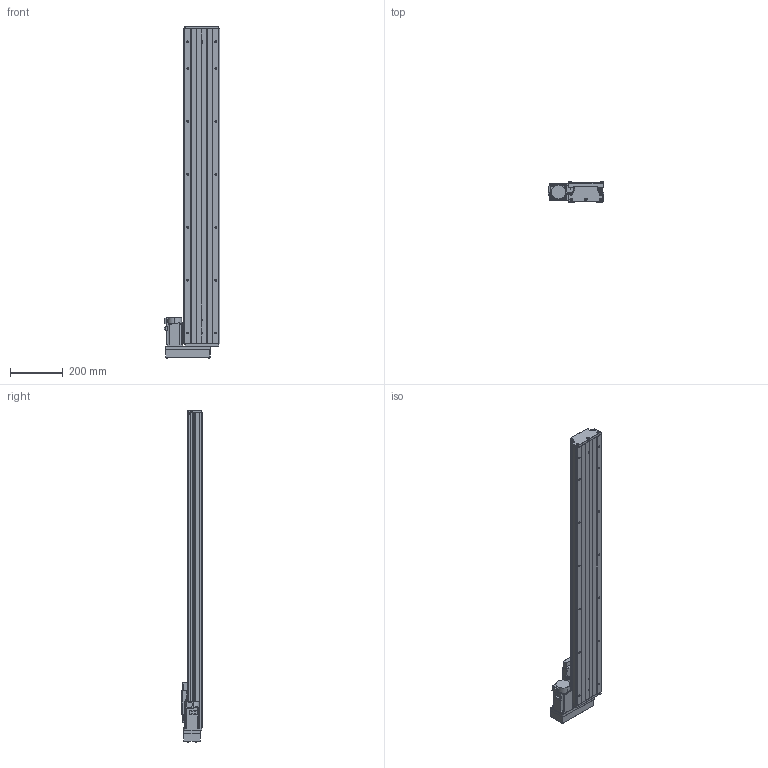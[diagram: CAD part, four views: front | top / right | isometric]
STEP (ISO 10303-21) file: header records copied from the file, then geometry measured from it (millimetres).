
FILE_DESCRIPTION (( 'STEP AP203' ), '1' );
FILE_NAME ('CTH130-1000-BL-M40-C4.step', '2023-06-30T02:36:14', ( '微软用户' ), ( '微软中国' ), 'SwSTEP 2.0', 'SolidWorks 2020', '' );
FILE_SCHEMA (( 'CONFIG_CONTROL_DESIGN' ));
Length unit declared in the file: millimetre
Products named in the file (20): GBT 70.1-M3℅5; GTH14-015-2_CTHA86-015-2; GTH14-005; GBT77-2000 M3×3; GTH14-033; GB1155-6X6; CTH130-031; CTH130-1000-BL-M40-C4; GBT70.1 M5℅16; GBT 70.2-M3¡Á5_M3¡Á6; GTH14-001_1000; CTHA60-017; す晦芛蹟隊 M3℅5; CTH130-002_GTH14-002; EE_SX911P_R; HG-KN43J-S100; GB T308.1-2013-6.35; CTHA60-016; GBT 70.2-M4¡Á35_M4¡Á35; GTH14-004
Assembly tree (60 placements, depth 2):
  CTH130-1000-BL-M40-C4
    GTH14-001_1000
    CTH130-002_GTH14-002
    GB T308.1-2013-6.35  x2
    GTH14-004
    GTH14-005
    GB1155-6X6  x2
    GBT70.1 M5℅16  x10
    CTHA60-017  x3
    EE_SX911P_R  x3
    CTHA60-016  x2
    GBT 70.1-M3℅5  x6
    GBT77-2000 M3×3  x6
    CTH130-031
    GBT 70.2-M3¡Á5_M3¡Á6  x8
    す晦芛蹟隊 M3℅5  x6
    HG-KN43J-S100
    GBT 70.2-M4¡Á35_M4¡Á35  x4
    GTH14-015-2_CTHA86-015-2
    GTH14-033
Bounding box: 209.3 x 76 x 1254.2 mm (x, y, z)
Volume: 6548293 mm3; surface area: 1056416.8 mm2
Topology: 63 solids, 63 shells, 2455 faces, 5845 edges, 3617 vertices
Faces by surface type: plane 1314, cylinder 662, cone 299, torus 124, sphere 36, bspline 20
Entity records: 44540 total; most frequent: CARTESIAN_POINT 9947, DIRECTION 6522, ORIENTED_EDGE 6396, EDGE_CURVE 3198, AXIS2_PLACEMENT_3D 2236, LINE 2050, VECTOR 2050, VERTEX_POINT 2027
